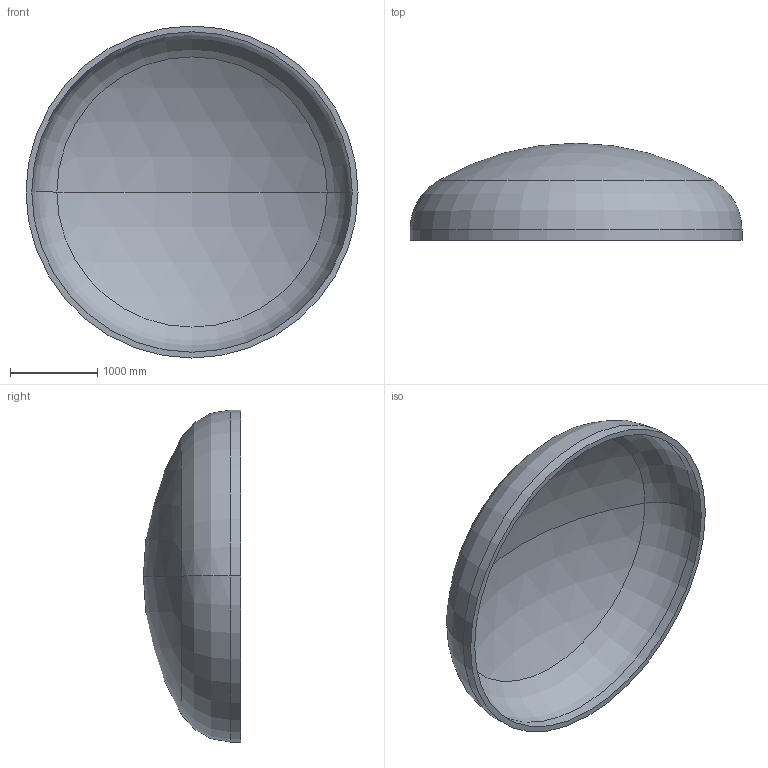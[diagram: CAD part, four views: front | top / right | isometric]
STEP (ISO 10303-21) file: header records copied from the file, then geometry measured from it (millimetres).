
FILE_DESCRIPTION (( 'STEP AP203' ), '1' );
FILE_NAME ('DIN 28013 Korbbogenform_-_Boden DIN 28013 - 3800 x 120 - I - s=66.step', '2016-07-01T21:35:27', ( '' ), ( '' ), 'SwSTEP 2.0', 'SolidWorks 2013', '' );
FILE_SCHEMA (( 'CONFIG_CONTROL_DESIGN' ));
Length unit declared in the file: millimetre
Products named in the file (1): DIN 28013 Korbbogenform_-_Boden DIN 28013 - 3800 x 120 - I - s=66
Bounding box: 3800 x 1112.47 x 3800 mm (x, y, z)
Volume: 1106046350.6 mm3; surface area: 34299894.1 mm2
Topology: 1 solids, 1 shells, 13 faces, 24 edges, 14 vertices
Faces by surface type: torus 4, cylinder 4, sphere 4, plane 1
Entity records: 407 total; most frequent: DIRECTION 72, CARTESIAN_POINT 52, ORIENTED_EDGE 48, AXIS2_PLACEMENT_3D 34, EDGE_CURVE 24, CIRCLE 20, EDGE_LOOP 14, VERTEX_POINT 14
